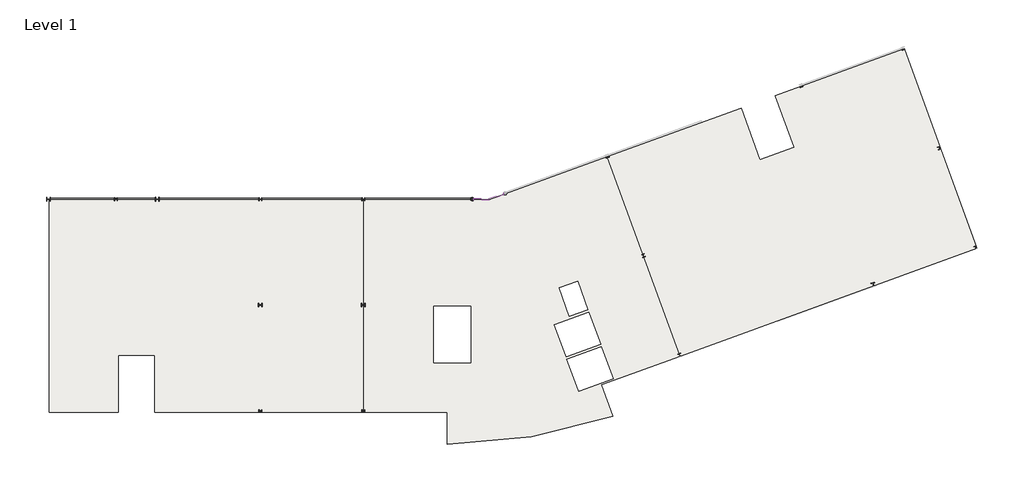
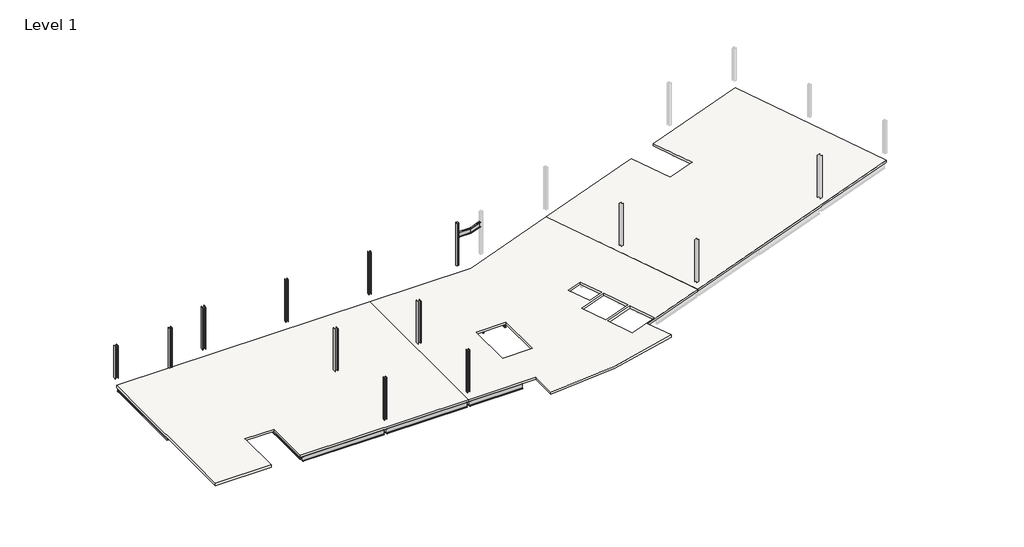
# One storey, part 1 of 2: 40 beams, 10 columns, 1 slab.
"""IFC4 building model written with IfcOpenShell, lengths in millimetres."""

from ifc_helpers import new_model, si_unit, point, frame, frame_2d, origin, place, context, project, spatial, polyline, circle_curve, trimmed, segment, composite_curve, outline, extrude, transform, mapped, element, save
from components import beam_e63ae445, ub_universal_beams_ub305x127x37_14baedf7, ub_universal_beams_ub305x127x37_f823aa85, ub_universal_beams_ub305x127x37_cdbcbb51, ub_universal_beams_ub305x127x37_54dd217e, ub_universal_beams_ub457x152x67_a95554c7, ub_universal_beams_ub457x152x67_b6dbdd7a, ub_universal_beams_ub457x152x67_9ada3ad7, ub_universal_beams_ub457x152x67_885cc86f, ub_universal_beams_ub457x152x67_c84566a2, ub_universal_beams_ub457x152x67_4841b023, ub_universal_beams_ub457x152x67_bb2d3bd6, ub_universal_beams_ub457x152x67_20791346, ub_universal_beams_ub457x152x67_59459dd6, ub_universal_beams_ub457x152x67_568b5c51, ub_universal_beams_ub457x152x67_e00400c9, ub_universal_beams_ub457x152x67_78ad538f, ub_universal_beams_ub457x152x67_d270934e, ub_universal_beams_ub457x152x67_e915e172, ub_universal_beams_ub457x152x67_18d3feb0, circular_hollow_sections_column_chs244_5x6_3_fd5da61b, uc_universal_columns_column_uc203x203x71_cef70da3, uc_universal_columns_column_uc254x254x132_e63b660d, uc_universal_columns_column_uc254x254x132_9b15f2e4

model = new_model("IFC4")

# Units and contexts
model_context = context("Model", 3, world=origin())
ifc_project = project(units=[si_unit("LENGTHUNIT", "METRE", prefix="MILLI")], contexts=[model_context])

# Site, building, storey
site = spatial("IfcSite", under=ifc_project)
building = spatial("IfcBuilding", under=site)
storey = spatial("IfcBuildingStorey", under=building, Name="Level 1", Elevation=3695.0)

# Beams
placement = place(None, origin())
beam_shape = beam_e63ae445(model_context)
element("IfcBeam", 1, ObjectType="Cranked Beam B2 : Cranked Beam B1", at=placement, inside=storey, context=model_context, shape_type="MappedRepresentation", body=[
    mapped(beam_shape, transform((0.0, 0.0, 0.0), x_axis=(1.0, 0.0, 0.0), y_axis=(0.0, 1.0, 0.0), z_axis=(0.0, 0.0, 1.0))),
])
ub_universal_beams_ub305x127x37_shape = ub_universal_beams_ub305x127x37_14baedf7(model_context)
element("IfcBeam", 2, ObjectType="UB-Universal Beams : UB305x127x37", at=placement, inside=storey, context=model_context, shape_type="MappedRepresentation", body=[
    mapped(ub_universal_beams_ub305x127x37_shape, transform((2457.6125027, 11575.7000004, 3542.8), x_axis=(0.0, 1.0, 0.0), y_axis=(-1.0, 0.0, 0.0), z_axis=(0.0, 0.0, 1.0))),
])
element("IfcBeam", 3, ObjectType="UB-Universal Beams : UB305x127x37", at=placement, inside=storey, context=model_context, shape_type="MappedRepresentation", body=[
    mapped(ub_universal_beams_ub305x127x37_shape, transform((4301.1250026, 11575.7000004, 3542.8), x_axis=(0.0, 1.0, 0.0), y_axis=(-1.0, 0.0, 0.0), z_axis=(0.0, 0.0, 1.0))),
])
element("IfcBeam", 4, ObjectType="UB-Universal Beams : UB305x127x37", at=placement, inside=storey, context=model_context, shape_type="MappedRepresentation", body=[
    mapped(ub_universal_beams_ub305x127x37_shape, transform((6144.6375025, 11575.7000005, 3542.8), x_axis=(0.0, 1.0, 0.0), y_axis=(-1.0, 0.0, 0.0), z_axis=(0.0, 0.0, 1.0))),
])
ub_universal_beams_ub305x127x37_2_shape = ub_universal_beams_ub305x127x37_f823aa85(model_context)
element("IfcBeam", 5, ObjectType="UB-Universal Beams : UB305x127x37", at=placement, inside=storey, context=model_context, shape_type="MappedRepresentation", body=[
    mapped(ub_universal_beams_ub305x127x37_2_shape, transform((9831.6625024, 4113.2000005, 3542.8), x_axis=(0.0, 1.0, 0.0), y_axis=(-1.0, 0.0, 0.0), z_axis=(0.0, 0.0, 1.0))),
])
element("IfcBeam", 6, ObjectType="UB-Universal Beams : UB305x127x37", at=placement, inside=storey, context=model_context, shape_type="MappedRepresentation", body=[
    mapped(ub_universal_beams_ub305x127x37_2_shape, transform((11675.1750024, 4113.2000005, 3542.8), x_axis=(0.0, 1.0, 0.0), y_axis=(-1.0, 0.0, 0.0), z_axis=(0.0, 0.0, 1.0))),
])
element("IfcBeam", 7, ObjectType="UB-Universal Beams : UB305x127x37", at=placement, inside=storey, context=model_context, shape_type="MappedRepresentation", body=[
    mapped(ub_universal_beams_ub305x127x37_2_shape, transform((13518.6875023, 4113.2000005, 3542.8), x_axis=(0.0, 1.0, 0.0), y_axis=(-1.0, 0.0, 0.0), z_axis=(0.0, 0.0, 1.0))),
])
element("IfcBeam", 8, ObjectType="UB-Universal Beams : UB305x127x37", at=placement, inside=storey, context=model_context, shape_type="MappedRepresentation", body=[
    mapped(ub_universal_beams_ub305x127x37_2_shape, transform((9887.2000022, 11613.2000005, 3542.8), x_axis=(0.0, 1.0, 0.0), y_axis=(-1.0, 0.0, 0.0), z_axis=(0.0, 0.0, 1.0))),
])
element("IfcBeam", 9, ObjectType="UB-Universal Beams : UB305x127x37", at=placement, inside=storey, context=model_context, shape_type="MappedRepresentation", body=[
    mapped(ub_universal_beams_ub305x127x37_2_shape, transform((11712.2000022, 11613.2000005, 3542.8), x_axis=(0.0, 1.0, 0.0), y_axis=(-1.0, 0.0, 0.0), z_axis=(0.0, 0.0, 1.0))),
])
element("IfcBeam", 10, ObjectType="UB-Universal Beams : UB305x127x37", at=placement, inside=storey, context=model_context, shape_type="MappedRepresentation", body=[
    mapped(ub_universal_beams_ub305x127x37_2_shape, transform((13537.2000023, 11613.2000005, 3542.8), x_axis=(0.0, 1.0, 0.0), y_axis=(-1.0, 0.0, 0.0), z_axis=(0.0, 0.0, 1.0))),
])
element("IfcBeam", 11, ObjectType="UB-Universal Beams : UB305x127x37", at=placement, inside=storey, context=model_context, shape_type="MappedRepresentation", body=[
    mapped(ub_universal_beams_ub305x127x37_2_shape, transform((17187.2000023, 11613.2000005, 3542.8), x_axis=(0.0, 1.0, 0.0), y_axis=(-1.0, 0.0, 0.0), z_axis=(0.0, 0.0, 1.0))),
])
element("IfcBeam", 12, ObjectType="UB-Universal Beams : UB305x127x37", at=placement, inside=storey, context=model_context, shape_type="MappedRepresentation", body=[
    mapped(ub_universal_beams_ub305x127x37_2_shape, transform((19012.2000023, 11613.2000005, 3542.8), x_axis=(0.0, 1.0, 0.0), y_axis=(-1.0, 0.0, 0.0), z_axis=(0.0, 0.0, 1.0))),
])
element("IfcBeam", 13, ObjectType="UB-Universal Beams : UB305x127x37", at=placement, inside=storey, context=model_context, shape_type="MappedRepresentation", body=[
    mapped(ub_universal_beams_ub305x127x37_2_shape, transform((20837.2000022, 11613.2000005, 3542.8), x_axis=(0.0, 1.0, 0.0), y_axis=(-1.0, 0.0, 0.0), z_axis=(0.0, 0.0, 1.0))),
])
element("IfcBeam", 14, ObjectType="UB-Universal Beams : UB305x127x37", at=placement, inside=storey, context=model_context, shape_type="MappedRepresentation", body=[
    mapped(ub_universal_beams_ub305x127x37_2_shape, transform((24587.2000022, 11613.2000005, 3542.8), x_axis=(0.0, 1.0, 0.0), y_axis=(-1.0, 0.0, 0.0), z_axis=(0.0, 0.0, 1.0))),
])
element("IfcBeam", 15, ObjectType="UB-Universal Beams : UB305x127x37", at=placement, inside=storey, context=model_context, shape_type="MappedRepresentation", body=[
    mapped(ub_universal_beams_ub305x127x37_2_shape, transform((26512.2000022, 11613.2000005, 3542.8), x_axis=(0.0, 1.0, 0.0), y_axis=(-1.0, 0.0, 0.0), z_axis=(0.0, 0.0, 1.0))),
])
element("IfcBeam", 16, ObjectType="UB-Universal Beams : UB305x127x37", at=placement, inside=storey, context=model_context, shape_type="MappedRepresentation", body=[
    mapped(ub_universal_beams_ub305x127x37_2_shape, transform((17187.2000022, 4113.2000005, 3542.8), x_axis=(0.0, 1.0, 0.0), y_axis=(-1.0, 0.0, 0.0), z_axis=(0.0, 0.0, 1.0))),
])
element("IfcBeam", 17, ObjectType="UB-Universal Beams : UB305x127x37", at=placement, inside=storey, context=model_context, shape_type="MappedRepresentation", body=[
    mapped(ub_universal_beams_ub305x127x37_2_shape, transform((19012.2000022, 4113.2000005, 3542.8), x_axis=(0.0, 1.0, 0.0), y_axis=(-1.0, 0.0, 0.0), z_axis=(0.0, 0.0, 1.0))),
])
element("IfcBeam", 18, ObjectType="UB-Universal Beams : UB305x127x37", at=placement, inside=storey, context=model_context, shape_type="MappedRepresentation", body=[
    mapped(ub_universal_beams_ub305x127x37_2_shape, transform((20837.2000022, 4113.2000005, 3542.8), x_axis=(0.0, 1.0, 0.0), y_axis=(-1.0, 0.0, 0.0), z_axis=(0.0, 0.0, 1.0))),
])
element("IfcBeam", 19, ObjectType="UB-Universal Beams : UB305x127x37", at=placement, inside=storey, context=model_context, shape_type="MappedRepresentation", body=[
    mapped(ub_universal_beams_ub305x127x37_2_shape, transform((24587.2000022, 4113.2000004, 3542.8), x_axis=(0.0, 1.0, 0.0), y_axis=(-1.0, 0.0, 0.0), z_axis=(0.0, 0.0, 1.0))),
])
element("IfcBeam", 20, ObjectType="UB-Universal Beams : UB305x127x37", at=placement, inside=storey, context=model_context, shape_type="MappedRepresentation", body=[
    mapped(ub_universal_beams_ub305x127x37_2_shape, transform((26512.2000022, 4113.2000004, 3542.8), x_axis=(0.0, 1.0, 0.0), y_axis=(-1.0, 0.0, 0.0), z_axis=(0.0, 0.0, 1.0))),
])
ub_universal_beams_ub305x127x37_3_shape = ub_universal_beams_ub305x127x37_cdbcbb51(model_context)
element("IfcBeam", 21, ObjectType="UB-Universal Beams : UB305x127x37", at=placement, inside=storey, context=model_context, shape_type="MappedRepresentation", body=[
    mapped(ub_universal_beams_ub305x127x37_3_shape, transform((28437.2000022, 11613.2000005, 3542.8), x_axis=(0.0, 1.0, 0.0), y_axis=(-1.0, 0.0, 0.0), z_axis=(0.0, 0.0, 1.0))),
])
ub_universal_beams_ub305x127x37_4_shape = ub_universal_beams_ub305x127x37_54dd217e(model_context)
element("IfcBeam", 22, ObjectType="UB-Universal Beams : UB305x127x37", at=placement, inside=storey, context=model_context, shape_type="MappedRepresentation", body=[
    mapped(ub_universal_beams_ub305x127x37_4_shape, transform((7988.1500025, 7863.2000005, 3542.8), x_axis=(0.0, 1.0, 0.0), y_axis=(-1.0, 0.0, 0.0), z_axis=(0.0, 0.0, 1.0))),
])
ub_universal_beams_ub457x152x67_shape = ub_universal_beams_ub457x152x67_a95554c7(model_context)
element("IfcBeam", 23, ObjectType="UB-Universal Beams : UB457x152x67", at=placement, inside=storey, context=model_context, shape_type="MappedRepresentation", body=[
    mapped(ub_universal_beams_ub457x152x67_shape, transform((19012.2000023, 15363.2000005, 3466.0), x_axis=(1.0, 0.0, 0.0), y_axis=(0.0, 1.0, 0.0), z_axis=(0.0, 0.0, 1.0))),
])
element("IfcBeam", 24, ObjectType="UB-Universal Beams : UB457x152x67", at=placement, inside=storey, context=model_context, shape_type="MappedRepresentation", body=[
    mapped(ub_universal_beams_ub457x152x67_shape, transform((19012.2000022, 363.2000005, 3466.0), x_axis=(1.0, 0.0, 0.0), y_axis=(0.0, 1.0, 0.0), z_axis=(0.0, 0.0, 1.0))),
])
ub_universal_beams_ub457x152x67_2_shape = ub_universal_beams_ub457x152x67_b6dbdd7a(model_context)
element("IfcBeam", 25, ObjectType="UB-Universal Beams : UB457x152x67", at=placement, inside=storey, context=model_context, shape_type="MappedRepresentation", body=[
    mapped(ub_universal_beams_ub457x152x67_2_shape, transform((26512.2000022, 15363.2000005, 3466.0), x_axis=(1.0, 0.0, 0.0), y_axis=(0.0, 1.0, 0.0), z_axis=(0.0, 0.0, 1.0))),
])
ub_universal_beams_ub457x152x67_3_shape = ub_universal_beams_ub457x152x67_9ada3ad7(model_context)
element("IfcBeam", 26, ObjectType="UB-Universal Beams : UB457x152x67", at=placement, inside=storey, context=model_context, shape_type="MappedRepresentation", body=[
    mapped(ub_universal_beams_ub457x152x67_3_shape, transform((11674.7000023, 7863.2000004, 3466.0), x_axis=(-1.0, 0.0, 0.0), y_axis=(0.0, -1.0, 0.0), z_axis=(0.0, 0.0, 1.0))),
])
ub_universal_beams_ub457x152x67_4_shape = ub_universal_beams_ub457x152x67_885cc86f(model_context)
element("IfcBeam", 27, ObjectType="UB-Universal Beams : UB457x152x67", at=placement, inside=storey, context=model_context, shape_type="MappedRepresentation", body=[
    mapped(ub_universal_beams_ub457x152x67_4_shape, transform((11674.7000023, 363.2000005, 3466.0), x_axis=(-1.0, 0.0, 0.0), y_axis=(0.0, -1.0, 0.0), z_axis=(0.0, 0.0, 1.0))),
])
ub_universal_beams_ub457x152x67_5_shape = ub_universal_beams_ub457x152x67_c84566a2(model_context)
element("IfcBeam", 28, ObjectType="UB-Universal Beams : UB457x152x67", at=placement, inside=storey, context=model_context, shape_type="MappedRepresentation", body=[
    mapped(ub_universal_beams_ub457x152x67_5_shape, transform((19012.2000023, 7863.2000004, 3466.0), x_axis=(1.0, 0.0, 0.0), y_axis=(0.0, 1.0, 0.0), z_axis=(0.0, 0.0, 1.0))),
])
ub_universal_beams_ub457x152x67_6_shape = ub_universal_beams_ub457x152x67_4841b023(model_context)
element("IfcBeam", 29, ObjectType="UB-Universal Beams : UB457x152x67", at=placement, inside=storey, context=model_context, shape_type="MappedRepresentation", body=[
    mapped(ub_universal_beams_ub457x152x67_6_shape, transform((25112.2000025, 7863.2000004, 3466.0), x_axis=(1.0, 0.0, 0.0), y_axis=(0.0, 1.0, 0.0), z_axis=(0.0, 0.0, 1.0))),
])
ub_universal_beams_ub457x152x67_7_shape = ub_universal_beams_ub457x152x67_bb2d3bd6(model_context)
element("IfcBeam", 30, ObjectType="UB-Universal Beams : UB457x152x67", at=placement, inside=storey, context=model_context, shape_type="MappedRepresentation", body=[
    mapped(ub_universal_beams_ub457x152x67_7_shape, transform((614.1000027, 11575.7000004, 3466.0), x_axis=(0.0, 1.0, 0.0), y_axis=(-1.0, 0.0, 0.0), z_axis=(0.0, 0.0, 1.0))),
])
ub_universal_beams_ub457x152x67_8_shape = ub_universal_beams_ub457x152x67_20791346(model_context)
element("IfcBeam", 31, ObjectType="UB-Universal Beams : UB457x152x67", at=placement, inside=storey, context=model_context, shape_type="MappedRepresentation", body=[
    mapped(ub_universal_beams_ub457x152x67_8_shape, transform((25112.2000025, 363.2000005, 3466.0), x_axis=(1.0, 0.0, 0.0), y_axis=(0.0, 1.0, 0.0), z_axis=(0.0, 0.0, 1.0))),
])
ub_universal_beams_ub457x152x67_9_shape = ub_universal_beams_ub457x152x67_59459dd6(model_context)
element("IfcBeam", 32, ObjectType="UB-Universal Beams : UB457x152x67", at=placement, inside=storey, context=model_context, shape_type="MappedRepresentation", body=[
    mapped(ub_universal_beams_ub457x152x67_9_shape, transform((15362.2000023, 4113.2000005, 3466.0), x_axis=(0.0, 1.0, 0.0), y_axis=(-1.0, 0.0, 0.0), z_axis=(0.0, 0.0, 1.0))),
])
element("IfcBeam", 33, ObjectType="UB-Universal Beams : UB457x152x67", at=placement, inside=storey, context=model_context, shape_type="MappedRepresentation", body=[
    mapped(ub_universal_beams_ub457x152x67_9_shape, transform((22662.2000022, 4113.2000005, 3466.0), x_axis=(0.0, 1.0, 0.0), y_axis=(-1.0, 0.0, 0.0), z_axis=(0.0, 0.0, 1.0))),
])
ub_universal_beams_ub457x152x67_10_shape = ub_universal_beams_ub457x152x67_568b5c51(model_context)
element("IfcBeam", 34, ObjectType="UB-Universal Beams : UB457x152x67", at=placement, inside=storey, context=model_context, shape_type="MappedRepresentation", body=[
    mapped(ub_universal_beams_ub457x152x67_10_shape, transform((15362.2000023, 11613.2000005, 3466.0), x_axis=(0.0, 1.0, 0.0), y_axis=(-1.0, 0.0, 0.0), z_axis=(0.0, 0.0, 1.0))),
])
element("IfcBeam", 35, ObjectType="UB-Universal Beams : UB457x152x67", at=placement, inside=storey, context=model_context, shape_type="MappedRepresentation", body=[
    mapped(ub_universal_beams_ub457x152x67_10_shape, transform((22662.2000022, 11613.2000005, 3466.0), x_axis=(0.0, 1.0, 0.0), y_axis=(-1.0, 0.0, 0.0), z_axis=(0.0, 0.0, 1.0))),
])
ub_universal_beams_ub457x152x67_11_shape = ub_universal_beams_ub457x152x67_e00400c9(model_context)
element("IfcBeam", 36, ObjectType="UB-Universal Beams : UB457x152x67", at=placement, inside=storey, context=model_context, shape_type="MappedRepresentation", body=[
    mapped(ub_universal_beams_ub457x152x67_11_shape, transform((30362.2000022, 11613.2000005, 3466.0), x_axis=(0.0, 1.0, 0.0), y_axis=(-1.0, 0.0, 0.0), z_axis=(0.0, 0.0, 1.0))),
])
ub_universal_beams_ub457x152x67_12_shape = ub_universal_beams_ub457x152x67_78ad538f(model_context)
element("IfcBeam", 37, ObjectType="UB-Universal Beams : UB457x152x67", at=placement, inside=storey, context=model_context, shape_type="MappedRepresentation", body=[
    mapped(ub_universal_beams_ub457x152x67_12_shape, transform((31317.5755278, 11361.2273115, 3466.0), x_axis=(1.0, 0.0, 0.0), y_axis=(0.0, 1.0, 0.0), z_axis=(0.0, 0.0, 1.0))),
])
ub_universal_beams_ub457x152x67_13_shape = ub_universal_beams_ub457x152x67_d270934e(model_context)
element("IfcBeam", 38, ObjectType="UB-Universal Beams : UB457x152x67", at=placement, inside=storey, context=model_context, shape_type="MappedRepresentation", body=[
    mapped(ub_universal_beams_ub457x152x67_13_shape, transform((4212.2000022, 15363.2000005, 3466.0), x_axis=(1.0, 0.0, 0.0), y_axis=(0.0, 1.0, 0.0), z_axis=(0.0, 0.0, 1.0))),
])
ub_universal_beams_ub457x152x67_14_shape = ub_universal_beams_ub457x152x67_e915e172(model_context)
element("IfcBeam", 39, ObjectType="UB-Universal Beams : UB457x152x67", at=placement, inside=storey, context=model_context, shape_type="MappedRepresentation", body=[
    mapped(ub_universal_beams_ub457x152x67_14_shape, transform((11712.2000023, 15363.2000005, 3466.0), x_axis=(1.0, 0.0, 0.0), y_axis=(0.0, 1.0, 0.0), z_axis=(0.0, 0.0, 1.0))),
])
ub_universal_beams_ub457x152x67_15_shape = ub_universal_beams_ub457x152x67_18d3feb0(model_context)
element("IfcBeam", 40, ObjectType="UB-Universal Beams : UB457x152x67", at=placement, inside=storey, context=model_context, shape_type="MappedRepresentation", body=[
    mapped(ub_universal_beams_ub457x152x67_15_shape, transform((8062.2000022, 11613.2000005, 3466.0), x_axis=(0.0, 1.0, 0.0), y_axis=(-1.0, 0.0, 0.0), z_axis=(0.0, 0.0, 1.0))),
])

# Columns
circular_hollow_sections_column_chs244_5x6_3_shape = circular_hollow_sections_column_chs244_5x6_3_fd5da61b(model_context)
element("IfcColumn", 41, ObjectType="Circular Hollow Sections-Column : CHS244.5x6.3", at=placement, inside=storey, context=model_context, shape_type="MappedRepresentation", body=[
    mapped(circular_hollow_sections_column_chs244_5x6_3_shape, transform((30362.2000022, 15363.2000005, 0.0), x_axis=(0.0, 1.0, 0.0), y_axis=(-1.0, 0.0, 0.0), z_axis=(0.0, 0.0, 1.0))),
])
element("IfcColumn", 42, ObjectType="UC-Universal Columns-Column : UC203x203x71", at=placement, inside=storey, context=model_context, shape_type="SweptSolid", body=[
    extrude(outline(composite_curve([segment(polyline([(5023.9666692, 15466.4000005), (5041.2666692, 15466.4000005), (5041.2666692, 15378.4000005)]), True, "CONTINUOUS"), segment(trimmed(circle_curve(frame_2d((5051.4666692, 15378.4000005)), 10.2), [point((5041.2666692, 15378.4000005))], [point((5051.4666692, 15368.2000005))], True, "CARTESIAN"), True, "CONTINUOUS"), segment(polyline([(5051.4666692, 15368.2000005), (5212.2666692, 15368.2000005)]), True, "CONTINUOUS"), segment(trimmed(circle_curve(frame_2d((5212.2666692, 15378.4000005)), 10.2), [point((5212.2666692, 15368.2000005))], [point((5222.4666692, 15378.4000005))], True, "CARTESIAN"), True, "CONTINUOUS"), segment(polyline([(5222.4666692, 15378.4000005), (5222.4666692, 15466.4000005), (5239.7666692, 15466.4000005), (5239.7666692, 15260.0000005), (5222.4666692, 15260.0000005), (5222.4666692, 15348.0000005)]), True, "CONTINUOUS"), segment(trimmed(circle_curve(frame_2d((5212.2666692, 15348.0000005)), 10.2), [point((5222.4666692, 15348.0000005))], [point((5212.2666692, 15358.2000005))], True, "CARTESIAN"), True, "CONTINUOUS"), segment(polyline([(5212.2666692, 15358.2000005), (5051.4666692, 15358.2000005)]), True, "CONTINUOUS"), segment(trimmed(circle_curve(frame_2d((5051.4666692, 15348.0000005)), 10.2), [point((5051.4666692, 15358.2000005))], [point((5041.2666692, 15348.0000005))], True, "CARTESIAN"), True, "CONTINUOUS"), segment(polyline([(5041.2666692, 15348.0000005), (5041.2666692, 15260.0000005), (5023.9666692, 15260.0000005), (5023.9666692, 15466.4000005)]), True, "CONTINUOUS")], self_intersect=False)), frame((0.0, 0.0, 3695.0), z_axis=(0.0, 0.0, 1.0), x_axis=(1.0, 0.0, 0.0)), (0.0, 0.0, 1.0), 3900.0),
])
uc_universal_columns_column_uc203x203x71_shape = uc_universal_columns_column_uc203x203x71_cef70da3(model_context)
element("IfcColumn", 43, ObjectType="UC-Universal Columns-Column : UC203x203x71", at=placement, inside=storey, context=model_context, shape_type="MappedRepresentation", body=[
    mapped(uc_universal_columns_column_uc203x203x71_shape, transform((22662.2000023, 15363.2000005, 0.0), x_axis=(0.0, 1.0, 0.0), y_axis=(-1.0, 0.0, 0.0), z_axis=(0.0, 0.0, 1.0))),
])
element("IfcColumn", 44, ObjectType="UC-Universal Columns-Column : UC203x203x71", at=placement, inside=storey, context=model_context, shape_type="MappedRepresentation", body=[
    mapped(uc_universal_columns_column_uc203x203x71_shape, transform((15362.2000023, 15363.2000005, 0.0), x_axis=(0.0, 1.0, 0.0), y_axis=(-1.0, 0.0, 0.0), z_axis=(0.0, 0.0, 1.0))),
])
element("IfcColumn", 45, ObjectType="UC-Universal Columns-Column : UC203x203x71", at=placement, inside=storey, context=model_context, shape_type="MappedRepresentation", body=[
    mapped(uc_universal_columns_column_uc203x203x71_shape, transform((15362.2000023, 363.2000005, 0.0), x_axis=(0.0, 1.0, 0.0), y_axis=(-1.0, 0.0, 0.0), z_axis=(0.0, 0.0, 1.0))),
])
element("IfcColumn", 46, ObjectType="UC-Universal Columns-Column : UC203x203x71", at=placement, inside=storey, context=model_context, shape_type="MappedRepresentation", body=[
    mapped(uc_universal_columns_column_uc203x203x71_shape, transform((22662.2000022, 363.2000005, 0.0), x_axis=(0.0, 1.0, 0.0), y_axis=(-1.0, 0.0, 0.0), z_axis=(0.0, 0.0, 1.0))),
])
uc_universal_columns_column_uc254x254x132_shape = uc_universal_columns_column_uc254x254x132_e63b660d(model_context)
element("IfcColumn", 47, ObjectType="UC-Universal Columns-Column : UC254x254x132", at=placement, inside=storey, context=model_context, shape_type="MappedRepresentation", body=[
    mapped(uc_universal_columns_column_uc254x254x132_shape, transform((15362.2000023, 7863.2000004, 0.0), x_axis=(0.0, 1.0, 0.0), y_axis=(-1.0, 0.0, 0.0), z_axis=(0.0, 0.0, 1.0))),
])
element("IfcColumn", 48, ObjectType="UC-Universal Columns-Column : UC254x254x132", at=placement, inside=storey, context=model_context, shape_type="MappedRepresentation", body=[
    mapped(uc_universal_columns_column_uc254x254x132_shape, transform((22662.2000022, 7863.2000004, 0.0), x_axis=(0.0, 1.0, 0.0), y_axis=(-1.0, 0.0, 0.0), z_axis=(0.0, 0.0, 1.0))),
])
element("IfcColumn", 49, ObjectType="UC-Universal Columns-Column : UC254x254x132", at=placement, inside=storey, context=model_context, shape_type="MappedRepresentation", body=[
    mapped(uc_universal_columns_column_uc254x254x132_shape, transform((8062.2000022, 15363.2000005, 0.0), x_axis=(0.0, 1.0, 0.0), y_axis=(-1.0, 0.0, 0.0), z_axis=(0.0, 0.0, 1.0))),
])
uc_universal_columns_column_uc254x254x132_2_shape = uc_universal_columns_column_uc254x254x132_9b15f2e4(model_context)
element("IfcColumn", 50, ObjectType="UC-Universal Columns-Column : UC254x254x132", at=placement, inside=storey, context=model_context, shape_type="MappedRepresentation", body=[
    mapped(uc_universal_columns_column_uc254x254x132_2_shape, transform((362.2000023, 15363.2000005, 0.0), x_axis=(0.0, 1.0, 0.0), y_axis=(-1.0, 0.0, 0.0), z_axis=(0.0, 0.0, 1.0))),
])

# Slab
element("IfcSlab", 51, ObjectType="RC COMP 175", at=placement, inside=storey, context=model_context, shape_type="SweptSolid", body=[
    extrude(outline(polyline([(39950.6701255, 18366.823738), (49412.7637168, 21810.7441587), (50743.9061145, 18153.4604787), (53177.7100023, 19039.2926498), (51846.5676046, 22696.5763298), (60969.2448211, 26016.9592931), (66109.9443828, 11893.0033256), (45091.3696873, 4242.8677705), (39950.6701255, 18366.823738)])), frame((0.0, 0.0, 3695.0), z_axis=(0.0, 0.0, 1.0), x_axis=(1.0, 0.0, 0.0)), (0.0, 0.0, 1.0), 200.0),
    extrude(outline(polyline([(22662.2000022, 288.0000005), (7887.2000023, 288.0000005), (7887.2000023, 4300.0), (5297.2000024, 4300.0), (5297.2000024, 288.0), (408.0, 288.0), (408.0000025, 15318.4000008), (22662.2000023, 15318.4000005), (22662.2000022, 288.0000005)])), frame((0.0, 0.0, 3695.0), z_axis=(0.0, 0.0, 1.0), x_axis=(1.0, 0.0, 0.0)), (0.0, 0.0, 1.0), 200.0),
    extrude(outline(composite_curve([segment(polyline([(39521.1756429, 2215.4829394), (40330.9765444, -9.4267517)]), True, "CONTINUOUS"), segment(trimmed(circle_curve(frame_2d((28027.924496, 36998.4991929)), 38999.3804108), [point((40330.9765444, -9.4267517))], [point((28589.8766928, -1996.8323502))], False, "CARTESIAN"), True, "CONTINUOUS"), segment(polyline([(28589.8766928, -1996.8323502), (28589.8766928, 288.0000005), (22662.2000022, 288.0000005), (22662.2000023, 15318.4000005), (31575.1947409, 15318.4000004), (39950.6701255, 18366.823738), (45091.3696873, 4242.8677705), (39521.1756429, 2215.4829394)]), True, "CONTINUOUS")], self_intersect=False), holes=[polyline([(30262.2000025, 3763.2000006), (30262.2000025, 7763.2000004), (27662.2000026, 7763.2000004), (27662.2000026, 3763.2000006), (30262.2000025, 3763.2000006)]), polyline([(37836.2376079, 9557.1573328), (36520.667939, 9078.3291322), (37254.4424652, 7062.3001903), (38570.0121342, 7541.1283909), (37836.2376079, 9557.1573328)]), polyline([(38637.9760474, 7354.3990738), (36194.7752334, 6465.1467012), (37016.0636927, 4208.6752042), (39459.2645067, 5097.9275768), (38637.9760474, 7354.3990738)]), polyline([(39527.6685354, 4909.9890526), (37084.4677213, 4020.73668), (37905.7561806, 1764.2651831), (40348.9569947, 2653.5175556), (39527.6685354, 4909.9890526)])]), frame((0.0, 0.0, 3695.0), z_axis=(0.0, 0.0, 1.0), x_axis=(1.0, 0.0, 0.0)), (0.0, 0.0, 1.0), 200.0),
])

save(model, "model.ifc")
